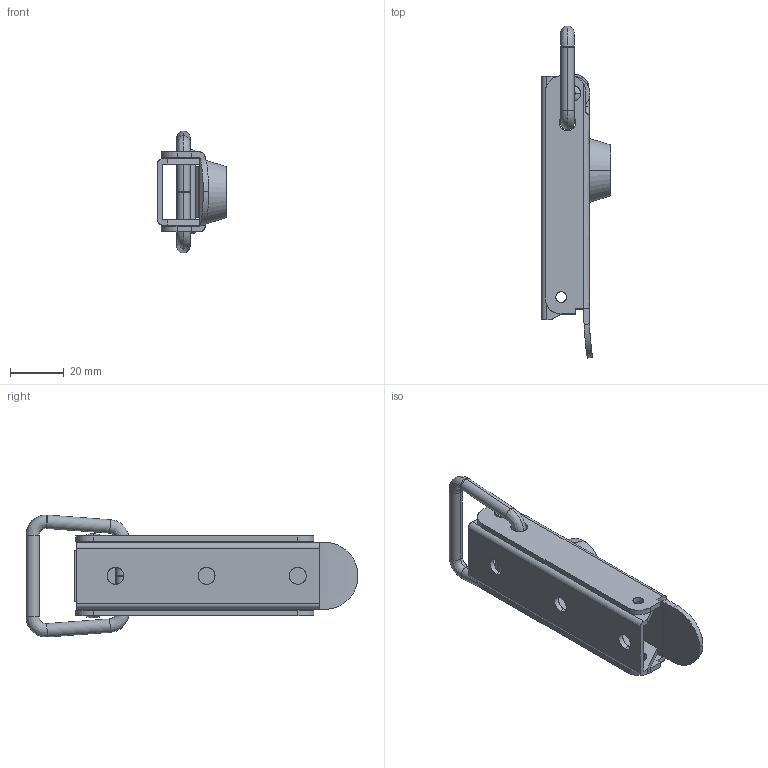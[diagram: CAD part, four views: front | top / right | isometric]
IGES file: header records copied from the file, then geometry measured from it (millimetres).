
Start section: SolidWorks IGES file using analytic representation for surfaces
Global section: file name: C:\Users\cbrechard\Desktop\GO 1033.IGS; native system: SolidWorks 2017; preprocessor: SolidWorks 2017; author: cbrechard; date: 190909.140559; units: millimetre
Bounding box: 25.75 x 123.8 x 45.49 mm (x, y, z)
Surface area: 24684.3 mm2 (no closed solid volume)
Topology: 0 solids, 0 shells, 154 faces, 2538 edges, 2538 vertices
Faces by surface type: revolution 78, bspline 76
